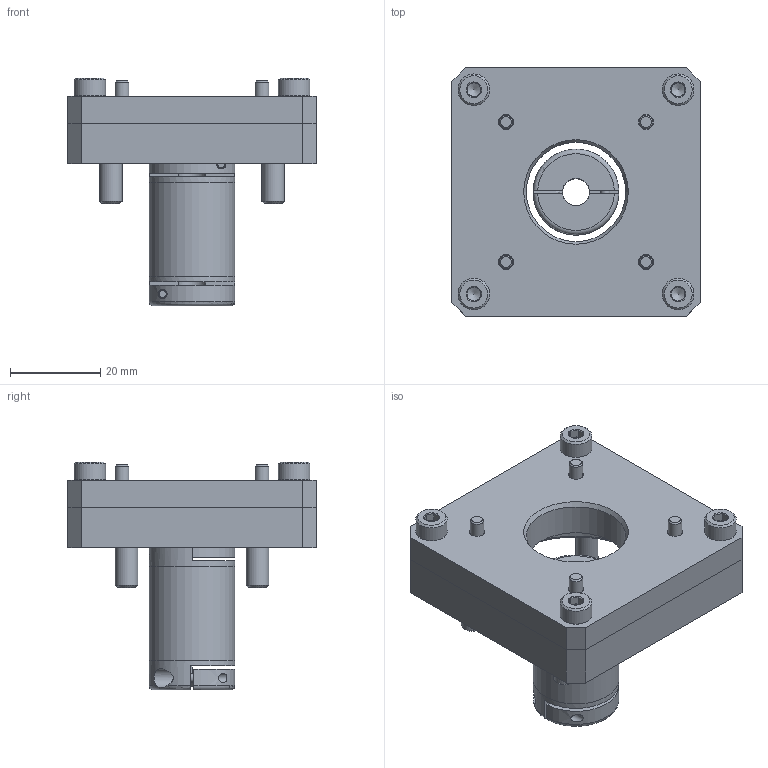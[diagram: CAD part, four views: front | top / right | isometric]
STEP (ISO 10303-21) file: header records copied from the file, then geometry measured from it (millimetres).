
FILE_DESCRIPTION(/* description */ ('Adapter KGH.-Adapter KGH.'),/* implementation_level */ '2;1');
FILE_NAME(/* name */ 'C:\ホームページ用データ\\X2\307E305A30533053306B\X0\\J08152.stp',/* time_stamp */ '2015-04-07T13:45:42+09:00',/* author */ ('jp4te01'),/* organization */ ('FESTO'),/* preprocessor_version */ 'ST-DEVELOPER v15.2',/* originating_system */ 'Autodesk Inventor 2014',/* authorisation */ '');
FILE_SCHEMA (('AUTOMOTIVE_DESIGN { 1 0 10303 214 3 1 1 }'));
Length unit declared in the file: centimetre
Products named in the file (8): 562668 EAMF-A-38A-42A(1A10); 735674 EAMF-A-38A-42A; DIN-912 - M4x12(F); DIN-912 - M5x12(F); 562668 EAMF-A-38A-42A; XGL2-19C-6x6; コピー版 JIS B 1176 - M3 x 6; J08152
Bounding box: 55 x 55 x 50.5 mm (x, y, z)
Volume: 42296 mm3; surface area: 23966.5 mm2
Topology: 17 solids, 17 shells, 479 faces, 1101 edges, 680 vertices
Faces by surface type: plane 272, cone 111, cylinder 86, torus 10
Full cylindrical faces by diameter (mm): 2 x4, 2.5 x2, 3 x4, 3.242 x4, 3.4 x4, 3.8 x2, 4 x4, 4.1 x2, 4.5 x4, 5 x4, 5.5 x8, 6 x6, 6.6 x1, 7 x4, 8.5 x4, 19 x3, 22 x1, 38 x1
Entity records: 7995 total; most frequent: CARTESIAN_POINT 1722, DIRECTION 1268, ORIENTED_EDGE 1126, EDGE_CURVE 563, AXIS2_PLACEMENT_3D 489, VERTEX_POINT 401, EDGE_LOOP 392, LINE 290
